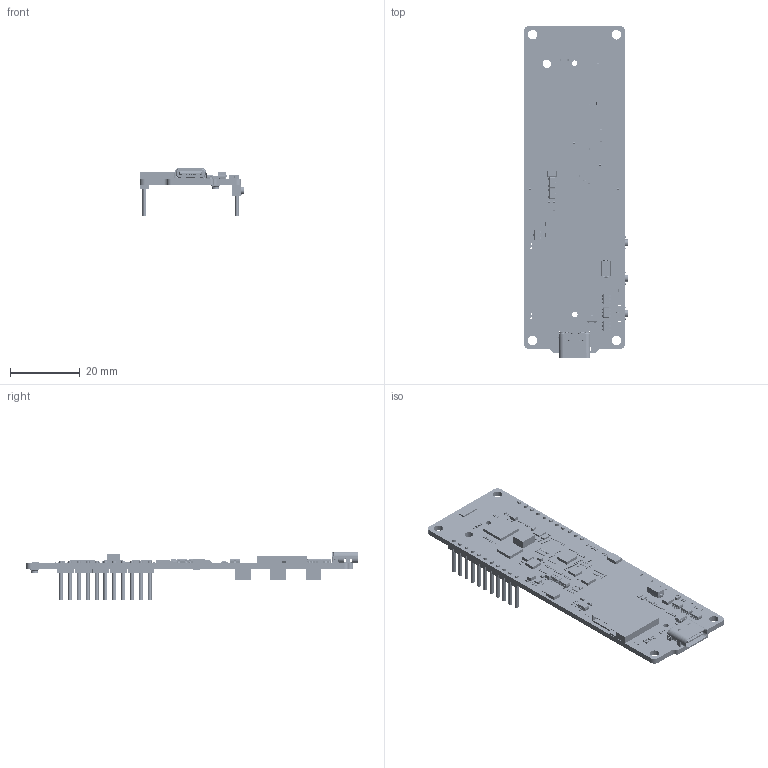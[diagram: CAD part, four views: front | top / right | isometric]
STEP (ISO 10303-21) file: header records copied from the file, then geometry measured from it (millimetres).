
FILE_DESCRIPTION(('Open CASCADE Model'),'2;1');
FILE_NAME('Open CASCADE Shape Model','2026-03-24T15:56:42',('Author'),( 'Open CASCADE'),'Open CASCADE STEP processor 6.5','Open CASCADE 6.5' ,'Unknown');
FILE_SCHEMA(('AUTOMOTIVE_DESIGN { 1 0 10303 214 1 1 1 1 }'));
Length unit declared in the file: millimetre
Products named in the file (337): PCB; Board; R40; User_Library-RES_0603-0201; C114; C_0402; C_0402-4045_AF0_ASM; C_0402-672_AF0_ASM; _1_10001; 3_1_A; 2_100; U10; SOT23-6; SOT23-6-13550_AF0_ASM; SOT23-5AND6__100; SOT23-6-7933_AF0; R52; R51; R0603; R_0603-3615_AF0_ASM; R_0603-3601_AF0_ASM; _2_1_2_3_4_AF0; _7_1_2_AF0; 5_1_2_3_400; R50; R49; R48; R47; R46; R45; L8; 438750992; Extruded; D5; SMA; SMA-4715_AF0_ASM; SMA-5401_AF0; C73; User_Library-0201(0603M)_Cap; C72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
Assembly tree (573 placements, depth 6):
  PCB
    Board
    R40
      User_Library-RES_0603-0201
    C114
      C_0402
        C_0402-4045_AF0_ASM
          C_0402-672_AF0_ASM
            _1_10001
            3_1_A
            2_100
    U10
      SOT23-6
        SOT23-6-13550_AF0_ASM
          SOT23-5AND6__100  x6
          SOT23-6-7933_AF0
    R52
      User_Library-RES_0603-0201
    R51
      R0603
        R_0603-3615_AF0_ASM
          R_0603-3601_AF0_ASM
            _2_1_2_3_4_AF0
            _7_1_2_AF0
            5_1_2_3_400
    R50
      R0603
        R_0603-3615_AF0_ASM
          R_0603-3601_AF0_ASM
            _2_1_2_3_4_AF0
            _7_1_2_AF0
            5_1_2_3_400
    R49
      User_Library-RES_0603-0201
    R48
      User_Library-RES_0603-0201
    R47
      User_Library-RES_0603-0201
    R46
      User_Library-RES_0603-0201
    R45
      User_Library-RES_0603-0201
    L8
      438750992
        Extruded
    D5
      SMA
        SMA-4715_AF0_ASM
          SMA-5401_AF0
    C73
      User_Library-0201(0603M)_Cap
    C72
      User_Library-0201(0603M)_Cap
    C71
      C_0603
        C_0603-7177_AF0_ASM
          C_0603-683_AF0_ASM
            2_1_200
            _1_1_20001
            3_1_2_A
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Bounding box: 29.85 x 95.08 x 13.85 mm (x, y, z)
Volume: 5374.4 mm3; surface area: 10611.7 mm2
Topology: 756 solids, 777 shells, 33782 faces, 87314 edges, 56239 vertices
Faces by surface type: plane 20262, bspline 7151, cylinder 3410, extrusion 2515, sphere 250, torus 150, cone 42, revolution 2
Full cylindrical faces by diameter (mm): 0.2 x1, 0.55 x4, 0.762 x2, 0.889 x22, 1.6 x2, 2.4 x1
Entity records: 552012 total; most frequent: CARTESIAN_POINT 220285, DIRECTION 50916, VECTOR 36382, LINE 35575, ORIENTED_EDGE 33806, PCURVE 33806, DEFINITIONAL_REPRESENTATION 33806, EDGE_CURVE 16908
